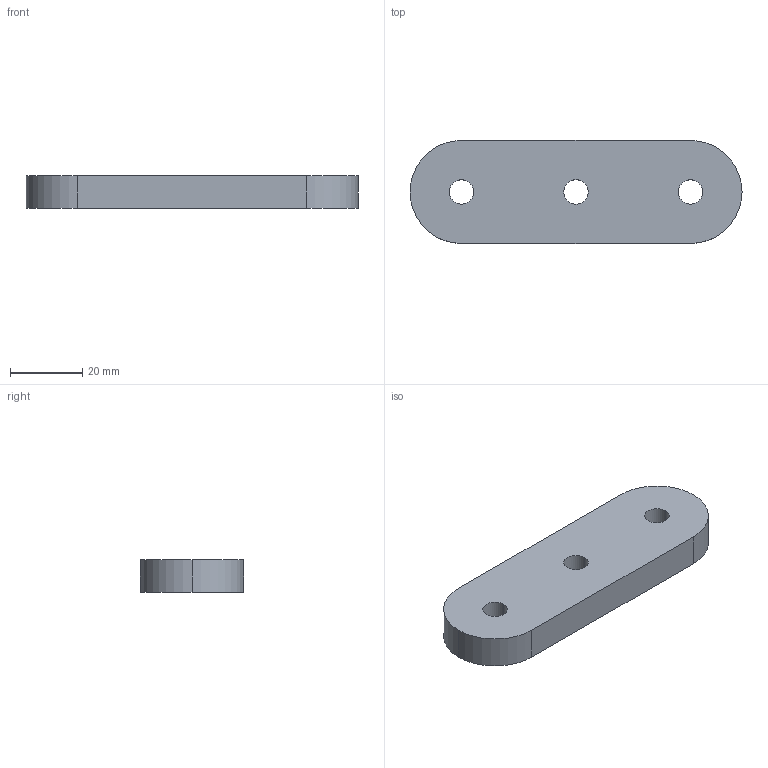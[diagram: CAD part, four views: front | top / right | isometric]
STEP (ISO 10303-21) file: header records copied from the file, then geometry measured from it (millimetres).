
FILE_DESCRIPTION (( 'STEP AP214' ), '1' );
FILE_NAME ('DRP-002-0534-00.STEP', '2013-12-20T16:58:26', ( 'ydmin' ), ( 'Microsoft' ), 'SwSTEP 2.0', 'SolidWorks 2013', '' );
FILE_SCHEMA (( 'AUTOMOTIVE_DESIGN' ));
Length unit declared in the file: inch
Products named in the file (1): DRP-002-0534-00
Bounding box: 92.08 x 28.57 x 9.14 mm (x, y, z)
Volume: 21472.5 mm3; surface area: 7260.9 mm2
Topology: 1 solids, 1 shells, 14 faces, 36 edges, 24 vertices
Faces by surface type: cylinder 10, plane 4
Entity records: 674 total; most frequent: DIRECTION 86, CARTESIAN_POINT 75, ORIENTED_EDGE 72, EDGE_CURVE 36, AXIS2_PLACEMENT_3D 35, VERTEX_POINT 24, CIRCLE 20, EDGE_LOOP 20
